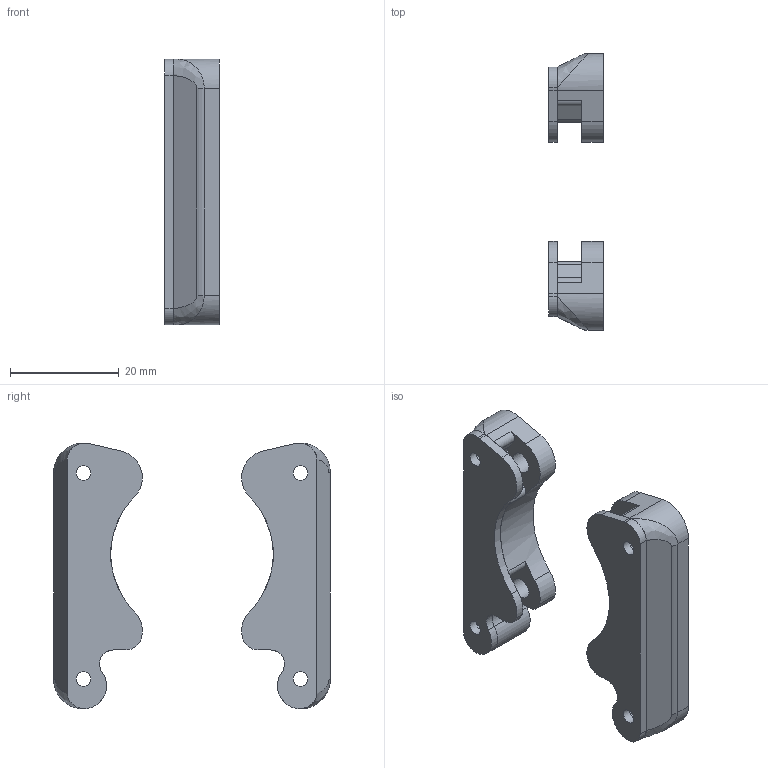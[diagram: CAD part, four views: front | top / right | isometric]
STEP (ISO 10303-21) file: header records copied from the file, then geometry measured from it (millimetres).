
FILE_DESCRIPTION(/* description */ ('CAx-IF Rec.Pracs.---Representation and Presentation of Product Manufacturing Information (PMI)---4.0---2014-10-13','CAx-IF Rec.Pracs.---3D Tessellated Geometry---0.4---2014-09-14','2;1'),/* implementation_level */ '2;1');
FILE_NAME(/* name */ 'qc1_p33_driver_mount',/* time_stamp */ '2026-07-26T02:17:34+03:00',/* author */ (''),/* organization */ (''),/* preprocessor_version */ 'ST-DEVELOPER v19.4',/* originating_system */ 'SIEMENS PLM Software NX2306.1700',/* authorisation */ $);
FILE_SCHEMA (('AP242_MANAGED_MODEL_BASED_3D_ENGINEERING_MIM_LF { 1 0 10303 442 3 1 4 }'));
Length unit declared in the file: millimetre
Products named in the file (1): qc1_p33_driver_mount
Bounding box: 10.1 x 51 x 49 mm (x, y, z)
Volume: 9252.1 mm3; surface area: 6993.3 mm2
Topology: 4 solids, 4 shells, 126 faces, 349 edges, 231 vertices
Faces by surface type: plane 62, cylinder 56, bspline 8
Full cylindrical faces by diameter (mm): 2.7 x8, 4.01 x4
Entity records: 4181 total; most frequent: CARTESIAN_POINT 859, DIRECTION 686, ORIENTED_EDGE 668, EDGE_CURVE 334, AXIS2_PLACEMENT_3D 247, VERTEX_POINT 228, LINE 192, VECTOR 192
